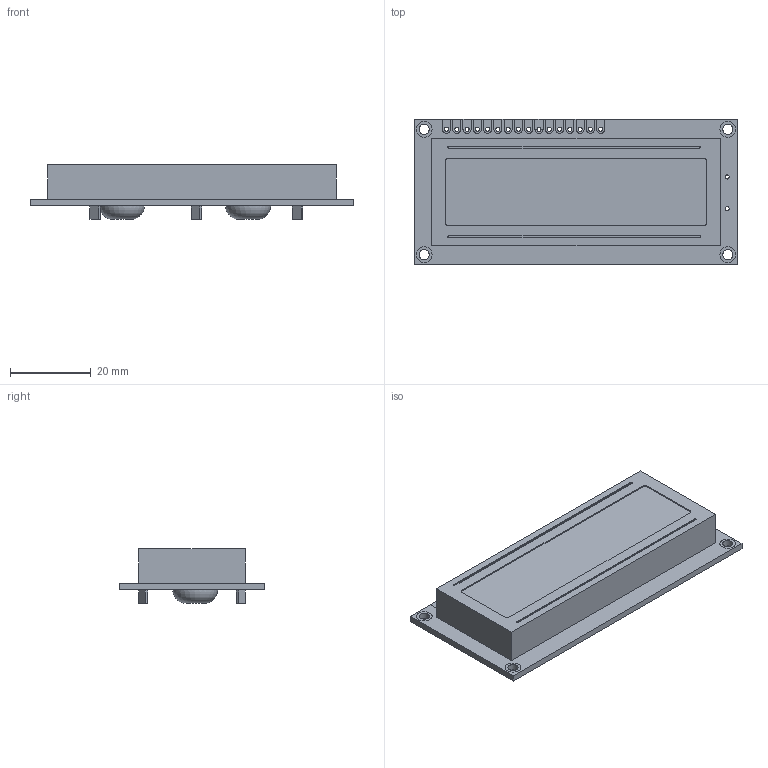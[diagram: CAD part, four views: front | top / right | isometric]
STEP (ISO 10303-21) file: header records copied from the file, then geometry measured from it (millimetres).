
FILE_DESCRIPTION(/* description */ ('STEP AP242 Edition 2','CAx-IF Rec.Pracs.---Representation and Presentation of Product Manufacturing Information (PMI)---4.0---2014-10-13','CAx-IF Rec.Pracs.---3D Tessellated Geometry---0.4---2014-09-14','2;1','CAx-IF Rec.Pracs.---User Defined Attributes---1.5---2016-08-15'),/* implementation_level */ '2;1');
FILE_NAME(/* name */ 'Assembly 1 - I2CLCD16X2~MODULE-TH_LCM1602K~nxQB (2)',/* time_stamp */ '2026-04-02T09:55:14Z',/* author */ (''),/* organization */ (''),/* preprocessor_version */ 'ST-DEVELOPER v20',/* originating_system */ 'ONSHAPE BY PTC INC, 1.212',/* authorisation */ ' ');
FILE_SCHEMA (('AP242_MANAGED_MODEL_BASED_3D_ENGINEERING_MIM_LF { 1 0 10303 442 3 1 4 }'));
Length unit declared in the file: metre
Products named in the file (1): I2CLCD16X2~MODULE-TH_LCM1602K~nxQB
Bounding box: 80 x 36 x 13.5 mm (x, y, z)
Volume: 20882.7 mm3; surface area: 8271.9 mm2
Topology: 1 solids, 1 shells, 218 faces, 583 edges, 390 vertices
Faces by surface type: plane 150, cylinder 50, bspline 16, torus 2
Full cylindrical faces by diameter (mm): 1 x18, 2.5 x4, 3.9 x4
Entity records: 8099 total; most frequent: CARTESIAN_POINT 2170, ORIENTED_EDGE 1102, DIRECTION 1029, EDGE_CURVE 551, LINE 415, VECTOR 415, VERTEX_POINT 386, EDGE_LOOP 313
